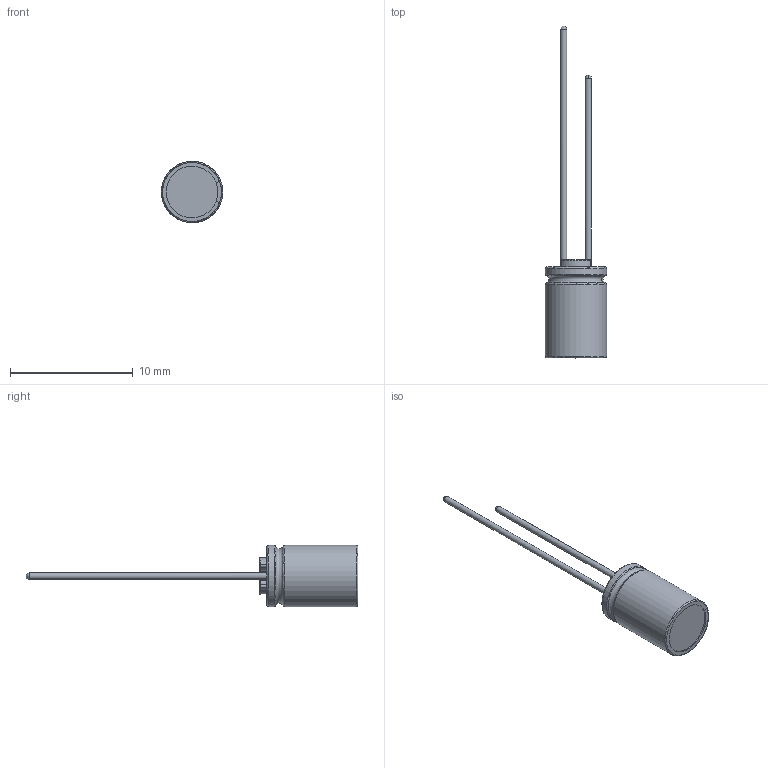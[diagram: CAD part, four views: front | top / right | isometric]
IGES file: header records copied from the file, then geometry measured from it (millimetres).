
Start section: JAMA-IS VERSION  1.0
Bounding box: 4.99 x 27 x 5 mm (x, y, z)
Surface area: 466.6 mm2 (no closed solid volume)
Topology: 0 solids, 0 shells, 79 faces, 971 edges, 960 vertices
Faces by surface type: bspline 79
